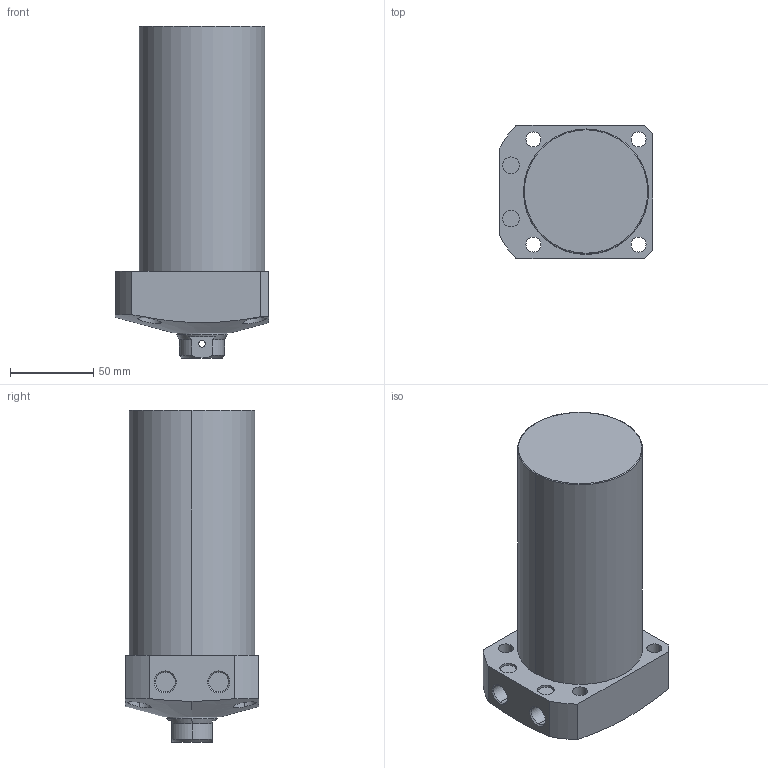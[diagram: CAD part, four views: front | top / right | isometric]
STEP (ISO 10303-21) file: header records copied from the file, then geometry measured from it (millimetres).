
FILE_DESCRIPTION (( 'STEP AP203' ), '1' );
FILE_NAME ('CLL-075CB-110.STEP', '2019-12-24T00:19:15', ( '' ), ( '' ), 'SwSTEP 2.0', 'SolidWorks 2015', '' );
FILE_SCHEMA (( 'CONFIG_CONTROL_DESIGN' ));
Length unit declared in the file: millimetre
Products named in the file (1): CLL-075CB-110
Bounding box: 92 x 80 x 199 mm (x, y, z)
Volume: 868356.6 mm3; surface area: 67049.2 mm2
Topology: 1 solids, 1 shells, 78 faces, 183 edges, 116 vertices
Faces by surface type: cylinder 39, plane 22, cone 15, torus 2
Entity records: 2862 total; most frequent: CARTESIAN_POINT 955, DIRECTION 396, ORIENTED_EDGE 362, EDGE_CURVE 181, AXIS2_PLACEMENT_3D 164, VERTEX_POINT 116, EDGE_LOOP 101, CIRCLE 85
